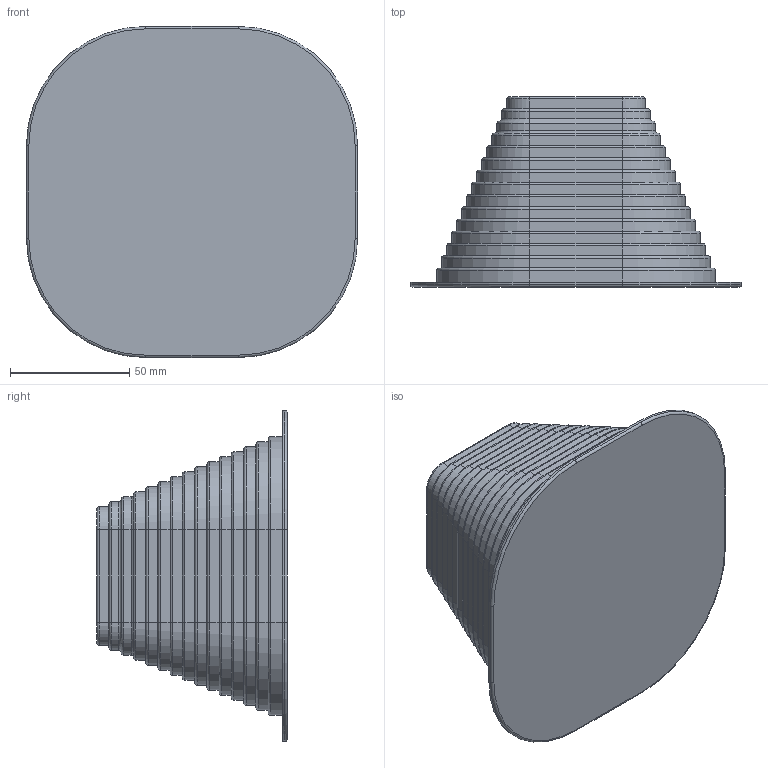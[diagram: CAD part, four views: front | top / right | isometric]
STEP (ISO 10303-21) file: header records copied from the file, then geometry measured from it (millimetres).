
FILE_DESCRIPTION (( 'STEP AP203' ), '1' );
FILE_NAME ('Soporte Cubiertas 1kg SCERC.STEP', '2024-11-06T12:45:35', ( '' ), ( '' ), 'SwSTEP 2.0', 'SolidWorks 2022', '' );
FILE_SCHEMA (( 'CONFIG_CONTROL_DESIGN' ));
Length unit declared in the file: millimetre
Products named in the file (1): Soporte Cubiertas 1kg SCERC
Bounding box: 139 x 80 x 139 mm (x, y, z)
Volume: 614729.2 mm3; surface area: 57705.4 mm2
Topology: 1 solids, 1 shells, 450 faces, 905 edges, 460 vertices
Faces by surface type: plane 219, cylinder 159, torus 72
Entity records: 11319 total; most frequent: DIRECTION 2180, CARTESIAN_POINT 1816, ORIENTED_EDGE 1810, EDGE_CURVE 905, AXIS2_PLACEMENT_3D 824, LINE 532, VECTOR 532, VERTEX_POINT 460
